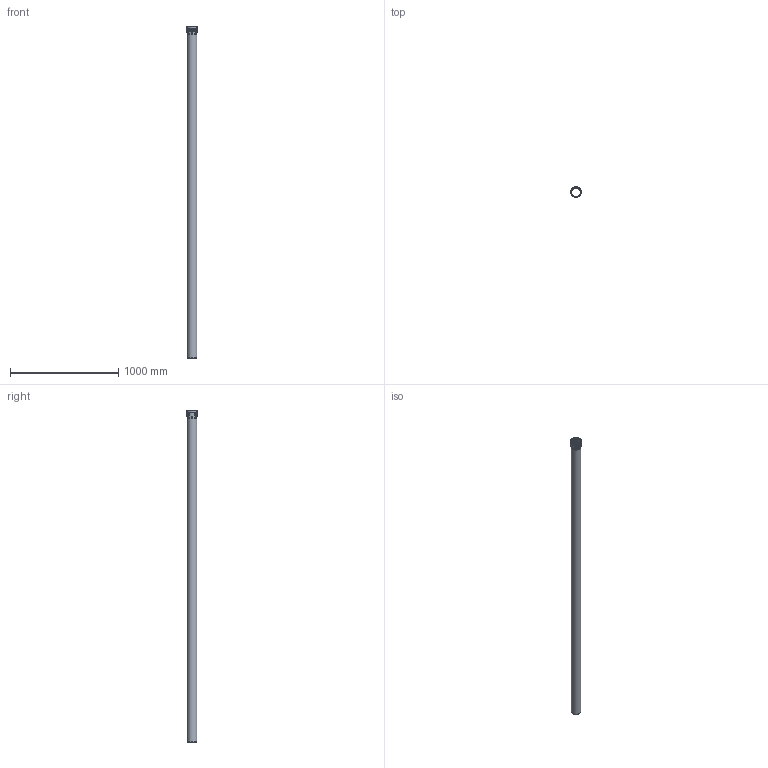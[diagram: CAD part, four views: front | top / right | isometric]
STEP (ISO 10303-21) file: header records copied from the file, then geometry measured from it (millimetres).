
FILE_DESCRIPTION(/* description */ (''),/* implementation_level */ '2;1');
FILE_NAME(/* name */ 'Z:\Geberit\Export\NewStep\390407.stp',/* time_stamp */ '2014-04-02T08:12:26+02:00',/* author */ ('ML'),/* organization */ (''),/* preprocessor_version */ 'ST-DEVELOPER v15.2',/* originating_system */ 'Autodesk Inventor 2014',/* authorisation */ '');
FILE_SCHEMA (('AUTOMOTIVE_DESIGN { 1 0 10303 214 3 1 1 }'));
Length unit declared in the file: millimetre
Products named in the file (3): 861437; 861584ohne; 390407
Bounding box: 105.4 x 105.4 x 3061 mm (x, y, z)
Volume: 2620100.3 mm3; surface area: 1694593.2 mm2
Topology: 2 solids, 2 shells, 47 faces, 104 edges, 71 vertices
Faces by surface type: torus 24, cylinder 11, plane 10, cone 2
Full cylindrical faces by diameter (mm): 84 x2, 90.2 x2, 91 x2, 94.1 x1, 97.2 x2, 99.2 x1, 105.4 x1
Entity records: 2003 total; most frequent: CARTESIAN_POINT 962, DIRECTION 182, ORIENTED_EDGE 174, AXIS2_PLACEMENT_3D 91, EDGE_CURVE 87, EDGE_LOOP 78, VERTEX_POINT 71, STYLED_ITEM 49
